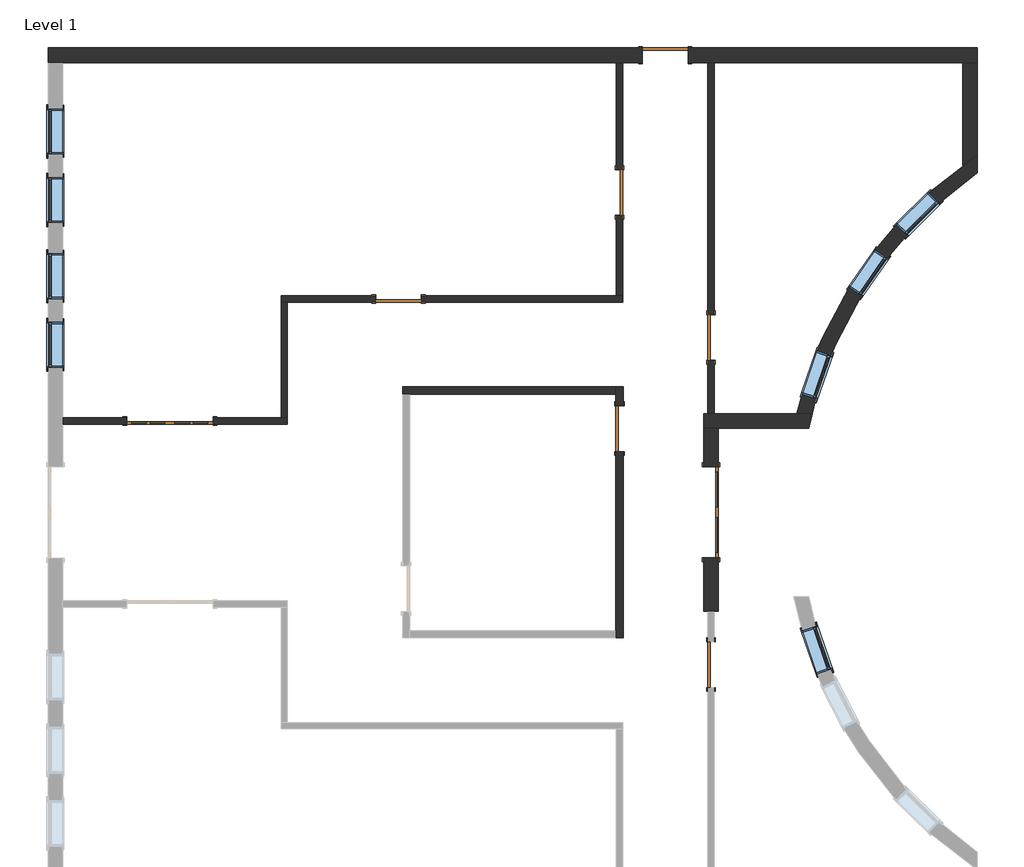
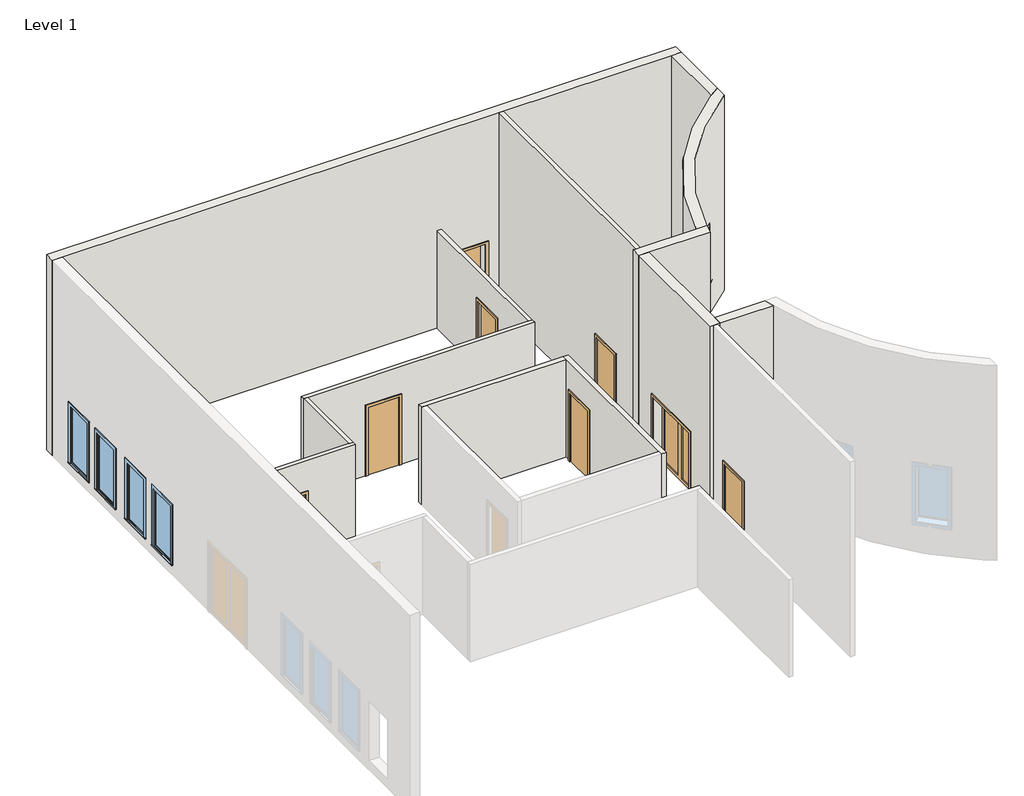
# One storey, part 2 of 2: 13 walls, 8 doors, 8 windows.
"""IFC4 building model written with IfcOpenShell, lengths in millimetres."""

from ifc_helpers import new_model, si_unit, point, frame, frame_2d, origin, origin_with_axes, place, context, project, spatial, polyline, circle_curve, trimmed, segment, composite_curve, outline, extrude, faceted_brep, transform, mapped, element, save
from ifc_brep_helpers import plane_surface, cylinder_surface, revolved_surface, advanced_brep
from components import door_e9d87526, door_c173eac2, door_617da642, door_88503111, door_eb9f8b14, door_3dff5d0e, fixed_6768491c, fixed_81e87f0c

model = new_model("IFC4")

# Units and contexts
model_context = context("Model", 3, world=origin())
ifc_project = project(units=[si_unit("LENGTHUNIT", "METRE", prefix="MILLI")], contexts=[model_context])

# Site, building, storey
site = spatial("IfcSite", under=ifc_project)
building = spatial("IfcBuilding", under=site)
storey = spatial("IfcBuildingStorey", under=building, Name="Level 1", Elevation=0.0)

# Doors
placement = place(None, origin())
door_shape = door_e9d87526(model_context)
element("IfcDoor", 1, ObjectType="Double-Glass 1 : 72\" x 84\"", at=placement, inside=storey, context=model_context, shape_type="MappedRepresentation", body=[
    mapped(door_shape, transform((2356.1311274, -430.8085073, 0.0), x_axis=(0.0, -1.0, 0.0), y_axis=(1.0, 0.0, 0.0), z_axis=(0.0, 0.0, 1.0))),
])
door_2_shape = door_c173eac2(model_context)
element("IfcDoor", 2, ObjectType="Double-Panel 2 : 68\" x 80\"", at=placement, inside=storey, context=model_context, shape_type="MappedRepresentation", body=[
    mapped(door_2_shape, transform((-8461.8876226, 1393.2289927, 0.0), x_axis=(-1.0, 0.0, 0.0), y_axis=(0.0, -1.0, 0.0), z_axis=(0.0, 0.0, 1.0))),
])
door_3_shape = door_617da642(model_context)
element("IfcDoor", 3, ObjectType="Sgl Flush : 36\" x 84\"", at=placement, inside=storey, context=model_context, shape_type="MappedRepresentation", body=[
    mapped(door_3_shape, transform((1444.1123774, 8708.4289927, 0.0), x_axis=(-1.0, 0.0, 0.0), y_axis=(0.0, -1.0, 0.0), z_axis=(0.0, 0.0, 1.0))),
])
door_4_shape = door_88503111(model_context)
element("IfcDoor", 4, ObjectType="Sgl Flush : 36\" x 84\"", at=placement, inside=storey, context=model_context, shape_type="MappedRepresentation", body=[
    mapped(door_4_shape, transform((-3889.8876226, 3831.6289927, 0.0), x_axis=(-1.0, 0.0, 0.0), y_axis=(0.0, -1.0, 0.0), z_axis=(0.0, 0.0, 1.0))),
])
element("IfcDoor", 5, ObjectType="Sgl Flush : 36\" x 84\"", at=placement, inside=storey, context=model_context, shape_type="MappedRepresentation", body=[
    mapped(door_4_shape, transform((529.7123774, 5965.2289927, 0.0), x_axis=(0.0, -1.0, 0.0), y_axis=(1.0, 0.0, 0.0), z_axis=(0.0, 0.0, 1.0))),
])
element("IfcDoor", 6, ObjectType="Sgl Flush : 36\" x 84\"", at=placement, inside=storey, context=model_context, shape_type="MappedRepresentation", body=[
    mapped(door_4_shape, transform((2358.5123774, 3064.8664927, 0.0), x_axis=(0.0, 1.0, 0.0), y_axis=(-1.0, 0.0, 0.0), z_axis=(0.0, 0.0, 1.0))),
])
door_5_shape = door_eb9f8b14(model_context)
element("IfcDoor", 7, ObjectType="Sgl Flush : 36\" x 84\"", at=placement, inside=storey, context=model_context, shape_type="MappedRepresentation", body=[
    mapped(door_5_shape, transform((2358.5123774, -3478.8085073, 0.0), x_axis=(0.0, -1.0, 0.0), y_axis=(1.0, 0.0, 0.0), z_axis=(0.0, 0.0, 1.0))),
])
door_6_shape = door_3dff5d0e(model_context)
element("IfcDoor", 8, ObjectType="Sgl Flush : 36\" x 84\"", at=placement, inside=storey, context=model_context, shape_type="MappedRepresentation", body=[
    mapped(door_6_shape, transform((529.7123774, 1240.8289927, 0.0), x_axis=(0.0, 1.0, 0.0), y_axis=(-1.0, 0.0, 0.0), z_axis=(0.0, 0.0, 1.0))),
])

# Walls
element("IfcWall", 9, ObjectType="Generic - 12\" Masonry", at=placement, inside=storey, context=model_context, shape_type="Brep", body=[
    faceted_brep([(-10895.5251226, 8560.7914927, 0.0), (-10600.2501226, 8560.7914927, 0.0), (467.7998774, 8560.7914927, 0.0), (591.6248774, 8560.7914927, 0.0), (986.9123774, 8560.7914927, 0.0), (986.9123774, 8560.7914927, 2133.6), (1901.3123774, 8560.7914927, 2133.6), (1901.3123774, 8560.7914927, 0.0), (2296.5998774, 8560.7914927, 0.0), (2420.4248774, 8560.7914927, 0.0), (7392.4748774, 8560.7914927, 0.0), (7687.7498774, 8560.7914927, 0.0), (7687.7498774, 8560.7914927, 6096.0), (7392.4748774, 8560.7914927, 6096.0), (2420.4248774, 8560.7914927, 6096.0), (2296.5998774, 8560.7914927, 6096.0), (-10600.2501226, 8560.7914927, 6096.0), (-10895.5251226, 8560.7914927, 6096.0), (986.9123774, 8856.0664927, 2133.6), (986.9123774, 8856.0664927, 0.0), (-10895.5251226, 8856.0664927, 0.0), (-10895.5251226, 8856.0664927, 6096.0), (7687.7498774, 8856.0664927, 6096.0), (7687.7498774, 8856.0664927, 0.0), (1901.3123774, 8856.0664927, 0.0), (1901.3123774, 8856.0664927, 2133.6)], [[[0, 1, 2, 3, 4, 5, 6, 7, 8, 9, 10, 11, 12, 13, 14, 15, 16, 17]], [[18, 19, 20, 21, 22, 23, 24, 25]], [[20, 19, 4, 3, 2, 1, 0]], [[24, 23, 11, 10, 9, 8, 7]], [[17, 16, 15, 14, 13, 12, 22, 21]], [[0, 17, 21, 20]], [[12, 11, 23, 22]], [[5, 4, 19, 18]], [[6, 5, 18, 25]], [[7, 6, 25, 24]]]),
])
element("IfcWall", 10, ObjectType="Generic - 12\" Masonry", at=placement, inside=storey, context=model_context, shape_type="AdvancedBrep", body=[
    advanced_brep(
    [(4380.4809086, 1540.8664927, 6096.0), (7687.7498774, 6354.9281942, 6096.0), (7687.7498774, 6711.7450927, 6096.0), (7392.479694, 6507.4464195, 6096.0), (4076.7189167, 1540.8664927, 6096.0), (4380.4809086, 1540.8664927, 0.0), (4076.7189167, 1540.8664927, 0.0), (7392.479694, 6507.4464195, 0.0), (7687.7498774, 6711.7450927, 0.0), (7687.7498774, 6354.9281942, 0.0), (6922.7409562, 5752.5897109, 2743.2), (6922.7409562, 5752.5897109, 914.4), (6273.4213207, 5108.7641359, 914.4), (6273.4213207, 5108.7641359, 2743.2), (5887.0014844, 4648.1395778, 2743.2), (5887.0014844, 4648.1395778, 914.4), (5365.8826583, 3896.7658165, 914.4), (5365.8826583, 3896.7658165, 2743.2), (4758.4259955, 2700.7397006, 2743.2), (4758.4259955, 2700.7397006, 914.4), (4459.0939332, 1836.7213695, 914.4), (4459.0939332, 1836.7213695, 2743.2), (6714.5317839, 5962.575628, 2743.2), (6065.2121485, 5318.750053, 2743.2), (6065.2121485, 5318.750053, 914.4), (6714.5317839, 5962.575628, 914.4), (5644.0119001, 4816.6661533, 2743.2), (5122.893074, 4065.2923921, 2743.2), (5122.893074, 4065.2923921, 914.4), (5644.0119001, 4816.6661533, 914.4), (4479.0078605, 2797.5418211, 2743.2), (4179.6757981, 1933.52349, 2743.2), (4179.6757981, 1933.52349, 914.4), (4479.0078605, 2797.5418211, 914.4)],
    [
        (0, 1, circle_curve(frame((12414.6932373, -435.5710073, 6096.0), z_axis=(0.0, 0.0, -1.0), x_axis=(1.0, 0.0, 0.0)), 8273.7460037)),
        (1, 2),
        (2, 3, circle_curve(frame((12414.6932373, -435.5710073, 6096.0), z_axis=(0.0, 0.0, 1.0), x_axis=(1.0, 0.0, 0.0)), 8569.0210037)),
        (3, 4, circle_curve(frame((12414.6932373, -435.5710073, 6096.0), z_axis=(0.0, 0.0, 1.0), x_axis=(1.0, 0.0, 0.0)), 8569.0209396)),
        (4, 0),
        (5, 6),
        (6, 7, circle_curve(frame((12414.6932373, -435.5710073, 0.0), z_axis=(0.0, 0.0, -1.0), x_axis=(1.0, 0.0, 0.0)), 8569.0210037)),
        (7, 8, circle_curve(frame((12414.6932373, -435.5710073, 0.0), z_axis=(0.0, 0.0, -1.0), x_axis=(1.0, 0.0, 0.0)), 8569.0209396)),
        (8, 9),
        (9, 5, circle_curve(frame((12414.6932373, -435.5710073, 0.0), z_axis=(0.0, 0.0, 1.0), x_axis=(1.0, 0.0, 0.0)), 8273.7460037)),
        (0, 5),
        (9, 1),
        (10, 11),
        (11, 12, circle_curve(frame((12414.6932373, -435.5710073, 914.4), z_axis=(0.0, 0.0, 1.0), x_axis=(1.0, 0.0, 0.0)), 8273.7460037)),
        (12, 13),
        (13, 10, circle_curve(frame((12414.6932373, -435.5710073, 2743.2), z_axis=(0.0, 0.0, -1.0), x_axis=(1.0, 0.0, 0.0)), 8273.7460037)),
        (14, 15),
        (15, 16, circle_curve(frame((12414.6932373, -435.5710073, 914.4), z_axis=(0.0, 0.0, 1.0), x_axis=(1.0, 0.0, 0.0)), 8273.7460037)),
        (16, 17),
        (17, 14, circle_curve(frame((12414.6932373, -435.5710073, 2743.2), z_axis=(0.0, 0.0, -1.0), x_axis=(1.0, 0.0, 0.0)), 8273.7460037)),
        (18, 19),
        (19, 20, circle_curve(frame((12414.6932373, -435.5710073, 914.4), z_axis=(0.0, 0.0, 1.0), x_axis=(1.0, 0.0, 0.0)), 8273.7460037)),
        (20, 21),
        (21, 18, circle_curve(frame((12414.6932373, -435.5710073, 2743.2), z_axis=(0.0, 0.0, -1.0), x_axis=(1.0, 0.0, 0.0)), 8273.7460037)),
        (2, 8),
        (6, 4),
        (22, 23, circle_curve(frame((12414.6932373, -435.5710073, 2743.2), z_axis=(0.0, 0.0, 1.0), x_axis=(1.0, 0.0, 0.0)), 8569.0210037)),
        (23, 24),
        (24, 25, circle_curve(frame((12414.6932373, -435.5710073, 914.4), z_axis=(0.0, 0.0, -1.0), x_axis=(1.0, 0.0, 0.0)), 8569.0210037)),
        (25, 22),
        (26, 27, circle_curve(frame((12414.6932373, -435.5710073, 2743.2), z_axis=(0.0, 0.0, 1.0), x_axis=(1.0, 0.0, 0.0)), 8569.0210037)),
        (27, 28),
        (28, 29, circle_curve(frame((12414.6932373, -435.5710073, 914.4), z_axis=(0.0, 0.0, -1.0), x_axis=(1.0, 0.0, 0.0)), 8569.0210037)),
        (29, 26),
        (30, 31, circle_curve(frame((12414.6932373, -435.5710073, 2743.2), z_axis=(0.0, 0.0, 1.0), x_axis=(1.0, 0.0, 0.0)), 8569.0210037)),
        (31, 32),
        (32, 33, circle_curve(frame((12414.6932373, -435.5710073, 914.4), z_axis=(0.0, 0.0, -1.0), x_axis=(1.0, 0.0, 0.0)), 8569.0210037)),
        (33, 30),
        (10, 22),
        (25, 11),
        (24, 12),
        (23, 13),
        (14, 26),
        (29, 15),
        (28, 16),
        (27, 17),
        (18, 30),
        (33, 19),
        (32, 20),
        (31, 21),
    ],
    [
        plane_surface(frame((20688.4392409, -435.5710073, 6096.0), z_axis=(0.0, 0.0, 1.0), x_axis=(0.0, -1.0, 0.0))),
        plane_surface(frame((20688.4392409, -435.5710073, 0.0), z_axis=(0.0, 0.0, -1.0), x_axis=(0.0, 1.0, 0.0))),
        revolved_surface(polyline([(20688.439241, -435.5710073, 0.0), (20688.439241, -435.5710073, 6096.0)]), (12414.6932373, -435.5710073, 0.0), (0.0, 0.0, -1.0)),
        cylinder_surface(frame((12414.6932373, -435.5710073, 0.0), z_axis=(0.0, 0.0, 1.0), x_axis=(1.0, 0.0, 0.0)), 8569.0210037),
        plane_surface(frame((7687.7498774, -9718.0016441, 0.0), z_axis=(1.0, 0.0, 0.0), x_axis=(0.0, 1.0, 0.0))),
        plane_surface(frame((4194.2801895, 1540.8664927, 0.0), z_axis=(0.0, -1.0, 0.0), x_axis=(-1.0, 0.0, 0.0))),
        plane_surface(frame((6922.7409562, 5752.5897109, 2743.2), z_axis=(-0.7101045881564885, -0.704096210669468, 0.0), x_axis=(-0.704096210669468, 0.7101045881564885, 0.0))),
        plane_surface(frame((6922.7409562, 5752.5897109, 914.4), z_axis=(0.0, 0.0, 1.0000000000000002), x_axis=(-0.7040962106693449, 0.7101045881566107, 0.0))),
        plane_surface(frame((6273.4213207, 5108.7641359, 914.4), z_axis=(0.7101045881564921, 0.7040962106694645, 0.0), x_axis=(-0.7040962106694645, 0.7101045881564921, 0.0))),
        plane_surface(frame((6273.4213207, 5108.7641359, 2743.2), z_axis=(0.0, 0.0, -1.0), x_axis=(-0.7040962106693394, 0.710104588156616, 0.0))),
        plane_surface(frame((5887.0014844, 4648.1395778, 2743.2), z_axis=(-0.5699024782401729, -0.8217123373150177, 0.0), x_axis=(-0.8217123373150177, 0.5699024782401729, 0.0))),
        plane_surface(frame((5887.0014844, 4648.1395778, 914.4), z_axis=(0.0, 0.0, 1.0), x_axis=(-0.8217123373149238, 0.5699024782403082, 0.0))),
        plane_surface(frame((5365.8826583, 3896.7658165, 914.4), z_axis=(0.5699024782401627, 0.8217123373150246, 0.0), x_axis=(-0.8217123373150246, 0.5699024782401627, 0.0))),
        plane_surface(frame((5365.8826583, 3896.7658165, 2743.2), z_axis=(0.0, 0.0, -1.0), x_axis=(-0.82171233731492, 0.5699024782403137, 0.0))),
        plane_surface(frame((4758.4259955, 2700.7397006, 2743.2), z_axis=(-0.327353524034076, -0.9449019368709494, 0.0), x_axis=(-0.9449019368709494, 0.327353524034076, 0.0))),
        plane_surface(frame((4758.4259955, 2700.7397006, 914.4), z_axis=(0.0, 0.0, 1.0), x_axis=(-0.9449019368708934, 0.3273535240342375, 0.0))),
        plane_surface(frame((4459.0939332, 1836.7213695, 914.4), z_axis=(0.3273535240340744, 0.94490193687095, 0.0), x_axis=(-0.94490193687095, 0.3273535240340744, 0.0))),
        plane_surface(frame((4459.0939332, 1836.7213695, 2743.2), z_axis=(0.0, 0.0, -1.0000000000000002), x_axis=(-0.944901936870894, 0.3273535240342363, 0.0))),
    ],
    [
        (0, [[1, 2, 3, 4, 5]]),
        (1, [[6, 7, 8, 9, 10]]),
        (2, [[-1, 11, -10, 12], [13, 14, 15, 16], [17, 18, 19, 20], [21, 22, 23, 24]]),
        (3, [[-4, -3, 25, -8, -7, 26], [27, 28, 29, 30], [31, 32, 33, 34], [35, 36, 37, 38]]),
        (4, [[-2, -12, -9, -25]]),
        (5, [[-5, -26, -6, -11]]),
        (6, [[-13, 39, -30, 40]]),
        (7, [[-14, -40, -29, 41]]),
        (8, [[-15, -41, -28, 42]]),
        (9, [[-16, -42, -27, -39]]),
        (10, [[-17, 43, -34, 44]]),
        (11, [[-18, -44, -33, 45]]),
        (12, [[-19, -45, -32, 46]]),
        (13, [[-20, -46, -31, -43]]),
        (14, [[-21, 47, -38, 48]]),
        (15, [[-22, -48, -37, 49]]),
        (16, [[-23, -49, -36, 50]]),
        (17, [[-24, -50, -35, -47]]),
    ],
),
])
element("IfcWall", 11, ObjectType="Generic - 12\" Masonry", at=placement, inside=storey, context=model_context, shape_type="SweptSolid", body=[
    extrude(outline(composite_curve([segment(polyline([(7687.7498774, 8560.7914927), (7687.7498774, 6711.7450927)]), True, "CONTINUOUS"), segment(trimmed(circle_curve(frame_2d((12414.6932373, -435.5710073)), 8569.0210037), [point((7687.7498774, 6711.7450927))], [point((7392.4748774, 6507.4430145))], True, "CARTESIAN"), True, "CONTINUOUS"), segment(polyline([(7392.4748774, 6507.4430145), (7392.4748774, 8560.7914927), (7687.7498774, 8560.7914927)]), True, "CONTINUOUS")], self_intersect=False)), origin_with_axes(), (0.0, 0.0, 1.0), 6096.0),
])
element("IfcWall", 12, ObjectType="Generic - 12\" Masonry", at=placement, inside=storey, context=model_context, shape_type="Brep", body=[
    faceted_brep([(2506.1498774, -2412.0085073, 0.0), (2506.1498774, -2116.7335073, 0.0), (2506.1498774, -1345.2085073, 0.0), (2506.1498774, -1345.2085073, 2133.6), (2506.1498774, 483.5914927, 2133.6), (2506.1498774, 483.5914927, 0.0), (2506.1498774, 1245.5914927, 0.0), (2506.1498774, 1245.5914927, 6096.0), (2506.1498774, -2116.7335073, 6096.0), (2506.1498774, -2412.0085073, 6096.0), (2210.8748774, -1345.2085073, 2133.6), (2210.8748774, -1345.2085073, 0.0), (2210.8748774, -2412.0085073, 0.0), (2210.8748774, -2412.0085073, 6096.0), (2210.8748774, 1245.5914927, 6096.0), (2210.8748774, 1245.5914927, 0.0), (2210.8748774, 483.5914927, 0.0), (2210.8748774, 483.5914927, 2133.6), (2420.4248774, -2412.0085073, 0.0), (2296.5998774, -2412.0085073, 0.0), (2296.5998774, -2412.0085073, 6096.0), (2420.4248774, -2412.0085073, 6096.0)], [[[0, 1, 2, 3, 4, 5, 6, 7, 8, 9]], [[10, 11, 12, 13, 14, 15, 16, 17]], [[12, 11, 2, 1, 0, 18, 19]], [[16, 15, 6, 5]], [[9, 8, 7, 14, 13, 20, 21]], [[0, 9, 21, 20, 13, 12, 19, 18]], [[7, 6, 15, 14]], [[3, 2, 11, 10]], [[4, 3, 10, 17]], [[5, 4, 17, 16]]]),
])
element("IfcWall", 13, ObjectType="Generic - 12\" Masonry", at=placement, inside=storey, context=model_context, shape_type="AdvancedBrep", body=[
    advanced_brep(
    [(4380.4809086, 1540.8664927, 0.0), (4076.7189167, 1540.8664927, 0.0), (2420.4248774, 1540.8664927, 0.0), (2296.5998774, 1540.8664927, 0.0), (2210.8748774, 1540.8664927, 0.0), (2210.8748774, 1540.8664927, 6096.0), (2296.5998774, 1540.8664927, 6096.0), (2420.4248774, 1540.8664927, 6096.0), (4076.7189167, 1540.8664927, 6096.0), (4380.4809086, 1540.8664927, 6096.0), (4313.5472948, 1245.5914927, 0.0), (4313.5472948, 1245.5914927, 6096.0), (2506.1498774, 1245.5914927, 6096.0), (2210.8748774, 1245.5914927, 6096.0), (2210.8748774, 1245.5914927, 0.0), (2506.1498774, 1245.5914927, 0.0)],
    [
        (0, 1),
        (1, 2),
        (2, 3),
        (3, 4),
        (4, 5),
        (5, 6),
        (6, 7),
        (7, 8),
        (8, 9),
        (9, 0),
        (10, 11),
        (11, 12),
        (12, 13),
        (13, 14),
        (14, 15),
        (15, 10),
        (0, 10, circle_curve(frame((12414.6932373, -435.5710073, 0.0), z_axis=(0.0, 0.0, 1.0), x_axis=(1.0, 0.0, 0.0)), 8273.7460037)),
        (14, 4),
        (5, 13),
        (11, 9, circle_curve(frame((12414.6932373, -435.5710073, 6096.0), z_axis=(0.0, 0.0, -1.0), x_axis=(1.0, 0.0, 0.0)), 8273.7460037)),
    ],
    [
        plane_surface(frame((4194.2801895, 1540.8664927, 0.0), z_axis=(0.0, 1.0, 0.0), x_axis=(-1.0, 0.0, 0.0))),
        plane_surface(frame((4194.2801895, 1245.5914927, 0.0), z_axis=(0.0, -1.0, 0.0), x_axis=(1.0, 0.0, 0.0))),
        plane_surface(frame((4194.2801895, 1540.8664927, 0.0), z_axis=(0.0, 0.0, -1.0), x_axis=(0.0, -1.0, 0.0))),
        plane_surface(frame((2358.5123774, 1540.8664927, 6096.0), z_axis=(0.0, 0.0, 1.0), x_axis=(0.0, -1.0, 0.0))),
        revolved_surface(polyline([(20688.439241, -435.5710073, 0.0), (20688.439241, -435.5710073, 6096.0)]), (12414.6932373, -435.5710073, 0.0), (0.0, 0.0, -1.0)),
        plane_surface(frame((2210.8748774, -2873.9710073, 0.0), z_axis=(-1.0, 0.0, 0.0), x_axis=(0.0, -1.0, 0.0))),
    ],
    [
        (0, [[1, 2, 3, 4, 5, 6, 7, 8, 9, 10]]),
        (1, [[11, 12, 13, 14, 15, 16]]),
        (2, [[-4, -3, -2, -1, 17, -16, -15, 18]]),
        (3, [[-9, -8, -7, -6, 19, -13, -12, 20]]),
        (4, [[-10, -20, -11, -17]]),
        (5, [[-5, -18, -14, -19]]),
    ],
),
])
element("IfcWall", 14, ObjectType="Generic - 12\" Masonry", at=placement, inside=storey, context=model_context, shape_type="SweptSolid", body=[
    extrude(outline(composite_curve([segment(polyline([(4076.7189167, -2412.0085073), (2506.1498774, -2412.0085073), (2506.1498774, -2116.7335073), (4012.2047005, -2116.7335073)]), True, "CONTINUOUS"), segment(trimmed(circle_curve(frame_2d((12414.6932373, -435.5710073)), 8569.0210037), [point((4012.2047005, -2116.7335073))], [point((4076.7189167, -2412.0085073))], True, "CARTESIAN"), True, "CONTINUOUS")], self_intersect=False)), origin_with_axes(), (0.0, 0.0, 1.0), 6096.0),
])
element("IfcWall", 15, ObjectType="Generic - 6\" Masonry", at=placement, inside=storey, context=model_context, shape_type="Brep", body=[
    faceted_brep([(-3808.9251226, 1931.3914927, 0.0), (-3666.0501226, 1931.3914927, 0.0), (458.2748774, 1931.3914927, 0.0), (458.2748774, 1931.3914927, 3048.0), (-3666.0501226, 1931.3914927, 3048.0), (-3808.9251226, 1931.3914927, 3048.0), (-3808.9251226, 2074.2664927, 0.0), (-3808.9251226, 2074.2664927, 3048.0), (458.2748774, 2074.2664927, 3048.0), (458.2748774, 2074.2664927, 0.0)], [[[0, 1, 2, 3, 4, 5]], [[6, 7, 8, 9]], [[2, 1, 0, 6, 9]], [[5, 4, 3, 8, 7]], [[0, 5, 7, 6]], [[3, 2, 9, 8]]]),
])
element("IfcWall", 16, ObjectType="Generic - 6\" Masonry", at=placement, inside=storey, context=model_context, shape_type="Brep", body=[
    faceted_brep([(458.2748774, 2074.2664927, 0.0), (458.2748774, 1931.3914927, 0.0), (458.2748774, 1698.0289927, 0.0), (458.2748774, 1698.0289927, 2133.6), (458.2748774, 783.6289927, 2133.6), (458.2748774, 783.6289927, 0.0), (458.2748774, -2802.5335073, 0.0), (458.2748774, -2945.4085073, 0.0), (458.2748774, -2945.4085073, 3048.0), (458.2748774, -2802.5335073, 3048.0), (458.2748774, 1931.3914927, 3048.0), (458.2748774, 2074.2664927, 3048.0), (601.1498774, 1698.0289927, 2133.6), (601.1498774, 1698.0289927, 0.0), (601.1498774, 2074.2664927, 0.0), (601.1498774, 2074.2664927, 3048.0), (601.1498774, -2945.4085073, 3048.0), (601.1498774, -2945.4085073, 0.0), (601.1498774, 783.6289927, 0.0), (601.1498774, 783.6289927, 2133.6)], [[[0, 1, 2, 3, 4, 5, 6, 7, 8, 9, 10, 11]], [[12, 13, 14, 15, 16, 17, 18, 19]], [[14, 13, 2, 1, 0]], [[18, 17, 7, 6, 5]], [[11, 10, 9, 8, 16, 15]], [[0, 11, 15, 14]], [[8, 7, 17, 16]], [[3, 2, 13, 12]], [[4, 3, 12, 19]], [[5, 4, 19, 18]]]),
])
element("IfcWall", 17, ObjectType="Interior - 4 7/8\" Partition (1-hr)", at=placement, inside=storey, context=model_context, shape_type="Brep", body=[
    faceted_brep([(-6113.9751226, 1331.3164927, 3048.0), (-10600.2501226, 1331.3164927, 3048.0), (-10600.2501226, 1331.3164927, 0.0), (-9325.4876226, 1331.3164927, 0.0), (-9325.4876226, 1331.3164927, 2032.0), (-7598.2876226, 1331.3164927, 2032.0), (-7598.2876226, 1331.3164927, 0.0), (-6113.9751226, 1331.3164927, 0.0), (-10600.2501226, 1455.1414927, 3048.0), (-6237.8001226, 1455.1414927, 3048.0), (-6113.9751226, 1455.1414927, 3048.0), (-6113.9751226, 1455.1414927, 0.0), (-6237.8001226, 1455.1414927, 0.0), (-7598.2876226, 1455.1414927, 0.0), (-7598.2876226, 1455.1414927, 2032.0), (-9325.4876226, 1455.1414927, 2032.0), (-9325.4876226, 1455.1414927, 0.0), (-10600.2501226, 1455.1414927, 0.0)], [[[0, 1, 2, 3, 4, 5, 6, 7]], [[8, 9, 10, 11, 12, 13, 14, 15, 16, 17]], [[11, 7, 6, 13, 12]], [[2, 17, 16, 3]], [[1, 0, 10, 9, 8]], [[0, 7, 11, 10]], [[2, 1, 8, 17]], [[15, 4, 3, 16]], [[4, 15, 14, 5]], [[5, 14, 13, 6]]]),
])
element("IfcWall", 18, ObjectType="Interior - 4 7/8\" Partition (1-hr)", at=placement, inside=storey, context=model_context, shape_type="Brep", body=[
    faceted_brep([(-6237.8001226, 3769.7164927, 3048.0), (-6113.9751226, 3769.7164927, 3048.0), (591.6248774, 3769.7164927, 3048.0), (591.6248774, 3893.5414927, 3048.0), (467.7998774, 3893.5414927, 3048.0), (-6237.8001226, 3893.5414927, 3048.0), (-6237.8001226, 3769.7164927, 0.0), (-6113.9751226, 3769.7164927, 0.0), (-4347.0876226, 3769.7164927, 0.0), (-4347.0876226, 3769.7164927, 2133.6), (-3432.6876226, 3769.7164927, 2133.6), (-3432.6876226, 3769.7164927, 0.0), (591.6248774, 3769.7164927, 0.0), (-4347.0876226, 3893.5414927, 2133.6), (-4347.0876226, 3893.5414927, 0.0), (-6237.8001226, 3893.5414927, 0.0), (591.6248774, 3893.5414927, 0.0), (467.7998774, 3893.5414927, 0.0), (-3432.6876226, 3893.5414927, 0.0), (-3432.6876226, 3893.5414927, 2133.6)], [[[0, 1, 2, 3, 4, 5]], [[6, 7, 8, 9, 10, 11, 12, 2, 1, 0]], [[13, 14, 15, 5, 4, 3, 16, 17, 18, 19]], [[15, 14, 8, 7, 6]], [[18, 17, 16, 12, 11]], [[2, 12, 16, 3]], [[6, 0, 5, 15]], [[9, 8, 14, 13]], [[10, 9, 13, 19]], [[11, 10, 19, 18]]]),
])
element("IfcWall", 19, ObjectType="Interior - 4 7/8\" Partition (1-hr)", at=placement, inside=storey, context=model_context, shape_type="SweptSolid", body=[
    extrude(outline(polyline([(5508.0289927, 2133.6), (5508.0289927, 0.0), (3893.5414927, 0.0), (3893.5414927, 3048.0), (8560.7914927, 3048.0), (8560.7914927, 0.0), (6422.4289927, 0.0), (6422.4289927, 2133.6), (5508.0289927, 2133.6)])), frame((467.7998774, 0.0, 0.0), z_axis=(1.0, 0.0, 0.0), x_axis=(0.0, 1.0, 0.0)), (0.0, 0.0, 1.0), 123.825),
])
element("IfcWall", 20, ObjectType="Interior - 4 7/8\" Partition (1-hr)", at=placement, inside=storey, context=model_context, shape_type="SweptSolid", body=[
    extrude(outline(polyline([(-6237.8001226, 1455.1414927), (-6237.8001226, 3769.7164927), (-6113.9751226, 3769.7164927), (-6113.9751226, 1455.1414927), (-6237.8001226, 1455.1414927)])), origin_with_axes(), (0.0, 0.0, 1.0), 3048.0),
])
element("IfcWall", 21, ObjectType="Interior - 4 7/8\" Partition (1-hr)", at=placement, inside=storey, context=model_context, shape_type="SweptSolid", body=[
    extrude(outline(polyline([(8560.7914927, 0.0), (3522.0664927, 0.0), (3522.0664927, 2133.6), (2607.6664927, 2133.6), (2607.6664927, 0.0), (1540.8664927, 0.0), (1540.8664927, 6096.0), (8560.7914927, 6096.0), (8560.7914927, 0.0)])), frame((2296.5998774, 0.0, 0.0), z_axis=(1.0, 0.0, 0.0), x_axis=(0.0, 1.0, 0.0)), (0.0, 0.0, 1.0), 123.825),
])

# Windows
fixed_shape = fixed_6768491c(model_context)
element("IfcWindow", 22, ObjectType="Fixed : 36\"w x 72\"h", at=placement, inside=storey, context=model_context, shape_type="MappedRepresentation", body=[
    mapped(fixed_shape, transform((4481.7291739, -3224.2029694, 609.6), x_axis=(0.32735352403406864, -0.9449019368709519, 0.0), y_axis=(0.9449019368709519, 0.32735352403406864, 0.0), z_axis=(0.0, 0.0, 1.0))),
])
fixed_2_shape = fixed_81e87f0c(model_context)
element("IfcWindow", 23, ObjectType="Fixed : 36\"w x 72\"h", at=placement, inside=storey, context=model_context, shape_type="MappedRepresentation", body=[
    mapped(fixed_2_shape, transform((-10747.8876226, 2879.1289927, 0.0), x_axis=(0.0, -1.0, 0.0), y_axis=(1.0, 0.0, 0.0), z_axis=(0.0, 0.0, 1.0))),
])
element("IfcWindow", 24, ObjectType="Fixed : 36\"w x 72\"h", at=placement, inside=storey, context=model_context, shape_type="MappedRepresentation", body=[
    mapped(fixed_2_shape, transform((-10747.8876226, 5774.7289927, 0.0), x_axis=(0.0, -1.0, 0.0), y_axis=(1.0, 0.0, 0.0), z_axis=(0.0, 0.0, 1.0))),
])
element("IfcWindow", 25, ObjectType="Fixed : 36\"w x 72\"h", at=placement, inside=storey, context=model_context, shape_type="MappedRepresentation", body=[
    mapped(fixed_2_shape, transform((-10747.8876226, 4250.7289927, 0.0), x_axis=(0.0, -1.0, 0.0), y_axis=(1.0, 0.0, 0.0), z_axis=(0.0, 0.0, 1.0))),
])
element("IfcWindow", 26, ObjectType="Fixed : 36\"w x 72\"h", at=placement, inside=storey, context=model_context, shape_type="MappedRepresentation", body=[
    mapped(fixed_2_shape, transform((-10747.8876226, 7146.3289927, 0.0), x_axis=(0.0, -1.0, 0.0), y_axis=(1.0, 0.0, 0.0), z_axis=(0.0, 0.0, 1.0))),
])
element("IfcWindow", 27, ObjectType="Fixed : 36\"w x 72\"h", at=placement, inside=storey, context=model_context, shape_type="MappedRepresentation", body=[
    mapped(fixed_2_shape, transform((4481.7291739, 2353.0609547, 609.6), x_axis=(0.32735352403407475, 0.9449019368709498, 0.0), y_axis=(-0.9449019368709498, 0.32735352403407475, 0.0), z_axis=(0.0, 0.0, 1.0))),
])
element("IfcWindow", 28, ObjectType="Fixed : 36\"w x 72\"h", at=placement, inside=storey, context=model_context, shape_type="MappedRepresentation", body=[
    mapped(fixed_2_shape, transform((5526.8398006, 4387.8989143, 609.6), x_axis=(0.569902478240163, 0.8217123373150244, 0.0), y_axis=(-0.8217123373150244, 0.569902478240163, 0.0), z_axis=(0.0, 0.0, 1.0))),
])
element("IfcWindow", 29, ObjectType="Fixed : 36\"w x 72\"h", at=placement, inside=storey, context=model_context, shape_type="MappedRepresentation", body=[
    mapped(fixed_2_shape, transform((6521.185119, 5562.3410552, 609.6), x_axis=(0.7101045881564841, 0.7040962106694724, 0.0), y_axis=(-0.7040962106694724, 0.7101045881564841, 0.0), z_axis=(0.0, 0.0, 1.0))),
])

save(model, "model.ifc")
